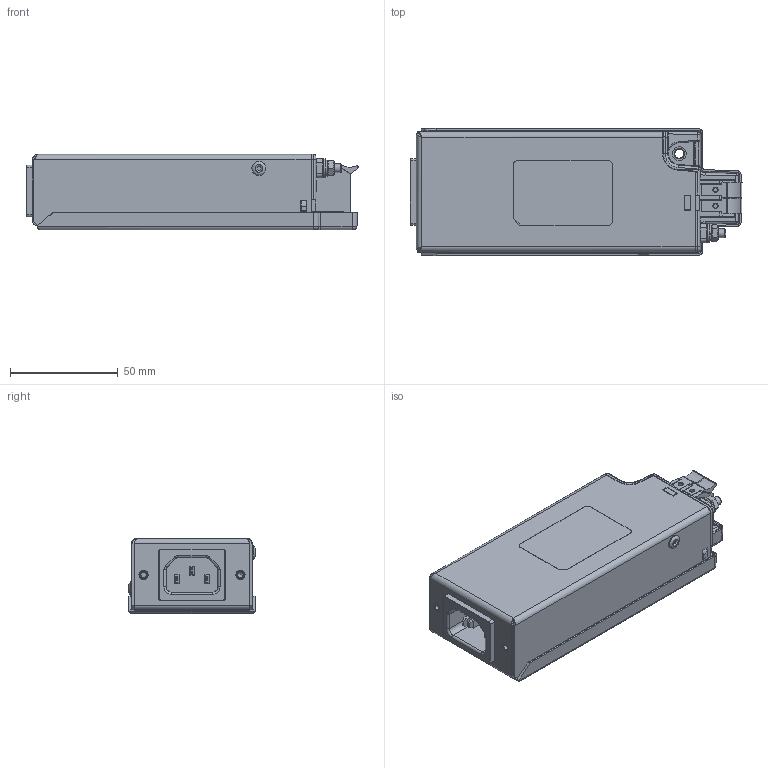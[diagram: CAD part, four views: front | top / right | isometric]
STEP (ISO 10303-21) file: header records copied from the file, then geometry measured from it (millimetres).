
FILE_DESCRIPTION(/* description */ (''),/* implementation_level */ '2;1');
FILE_NAME(/* name */ 'C:\Users\Christian.Ackermann\OneDrive - Schaffner EMV AG\Desktop\UMA_customerSTEP\FN264x-10_15-103.stp',/* time_stamp */ '2021-08-24T10:50:26+02:00',/* author */ ('Christian.Ackermann'),/* organization */ (''),/* preprocessor_version */ 'ST-DEVELOPER v18.1',/* originating_system */ 'Autodesk Inventor 2020',/* authorisation */ '');
FILE_SCHEMA (('AUTOMOTIVE_DESIGN { 1 0 10303 214 3 1 1 }'));
Length unit declared in the file: millimetre
Products named in the file (1): FN264x-10_15-1032
Bounding box: 154.11 x 59 x 35.06 mm (x, y, z)
Volume: 255101.8 mm3; surface area: 45508.8 mm2
Topology: 3 solids, 3 shells, 1280 faces, 3288 edges, 2048 vertices
Faces by surface type: plane 613, cylinder 422, bspline 161, torus 36, sphere 25, cone 23
Full cylindrical faces by diameter (mm): 0.8 x12, 2 x4, 2.2 x1, 2.459 x2, 2.8 x1, 4 x2, 4.2 x1, 4.25 x2, 4.3 x1, 6.111 x1, 6.4 x2, 6.5 x2, 8.39 x2, 8.74 x3, 9 x1
Entity records: 44135 total; most frequent: CARTESIAN_POINT 11591, ORIENTED_EDGE 6558, DIRECTION 6444, EDGE_CURVE 3279, AXIS2_PLACEMENT_3D 2225, VERTEX_POINT 2048, LINE 1994, VECTOR 1994
